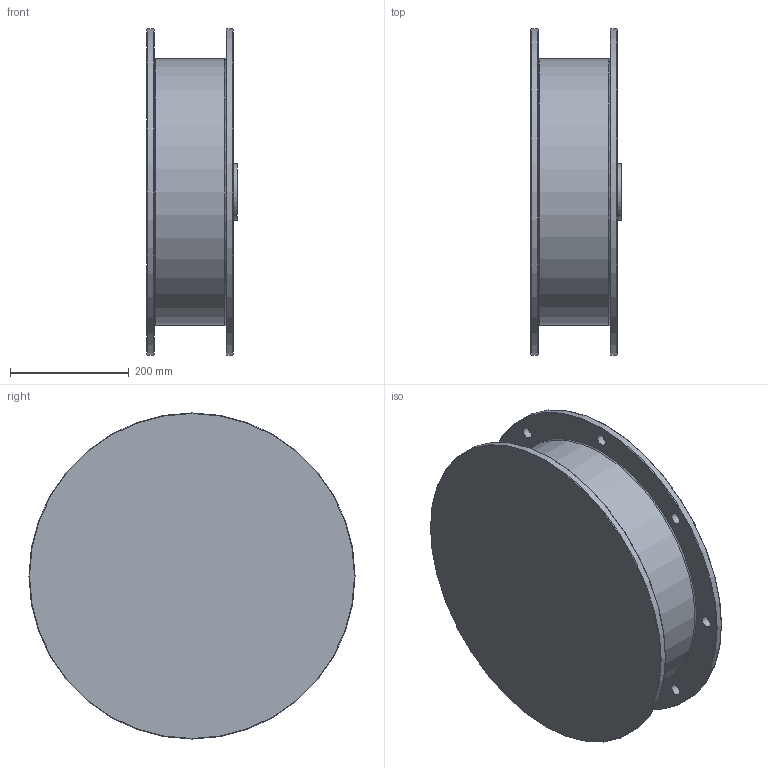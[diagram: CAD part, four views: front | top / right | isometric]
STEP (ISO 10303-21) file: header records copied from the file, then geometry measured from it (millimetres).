
FILE_DESCRIPTION((''),'2;1');
FILE_NAME('D:\PAWEŁ\ZLECENIA\DualSystem\001 Modele\DKAB150_\DK_150_STEP\280S_B5_L145,5.stp','2011-12-19T15:55:05',('Pawe'),(''),'Autodesk Inventor 2009','Autodesk Inventor 2009','');
FILE_SCHEMA(('AUTOMOTIVE_DESIGN { 1 0 10303 214 1 1 1 1 }'));
Length unit declared in the file: millimetre
Products named in the file (1): 280S_B5_L145,5
Bounding box: 152 x 550 x 550 mm (x, y, z)
Volume: 5382769.2 mm3; surface area: 1096401.2 mm2
Topology: 1 solids, 1 shells, 33 faces, 68 edges, 43 vertices
Faces by surface type: plane 11, bspline 10, cylinder 7, torus 5
Full cylindrical faces by diameter (mm): 95 x1, 438 x1, 450 x2, 550 x2
Entity records: 1045 total; most frequent: CARTESIAN_POINT 348, DIRECTION 132, ORIENTED_EDGE 94, EDGE_LOOP 76, AXIS2_PLACEMENT_3D 61, EDGE_CURVE 47, VERTEX_POINT 43, FACE_BOUND 43
